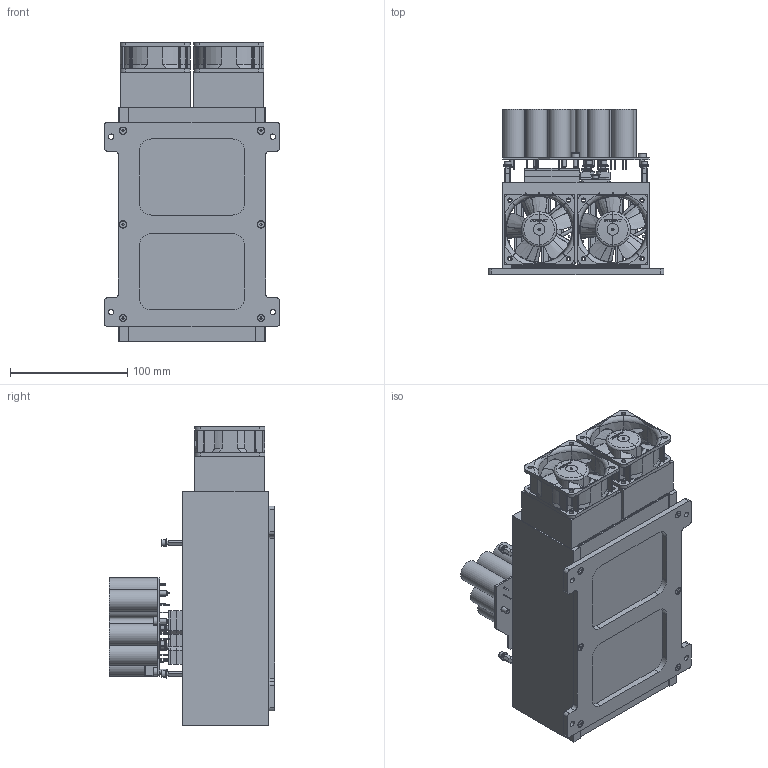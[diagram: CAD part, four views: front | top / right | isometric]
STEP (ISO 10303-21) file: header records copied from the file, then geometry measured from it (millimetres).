
FILE_DESCRIPTION (( 'STEP AP214' ), '1' );
FILE_NAME ('482.06.00.000-B01_Äðàéâåð äèîäíûé.STEP', '2026-02-08T10:13:16', ( '' ), ( '' ), 'SwSTEP 2.0', 'SolidWorks 2019', '' );
FILE_SCHEMA (( 'AUTOMOTIVE_DESIGN' ));
Length unit declared in the file: millimetre
Products named in the file (17): ﾘ琺矜 ﾌ4 DIN127; Q1_sdc-400 LV; 妈眚 󉱭0 DIN7991; SDC-400 LV_1; 妈眚 󉱭6 DIN7991; 482.06.00.002-B01_冓儰僗闉; 482.10.00.012-A01_砑僔蠂縺; 妈眚 󊅠 DIN912; SDC-400 LV_2; Âèíò DIN912 M3x8 screw with spring and washer; 482.10.00.013-A01_砑僔蠂縺; ﾘ琺矜 ﾌ4 DIN125; 482.10.00.001-A01_砱謽闀豂膹馯罻; 妈眚 󊅙0 DIN912; 栺鍣罻 PCHSN-12; 482.06.00.000-B01_Äðàéâåð äèîäíûé; 482.06.00.001-A01_砑僔蠂縺
Assembly tree (44 placements, depth 2):
  482.06.00.000-B01_Äðàéâåð äèîäíûé
    482.06.00.001-A01_砑僔蠂縺
    482.06.00.002-B01_冓儰僗闉
    482.10.00.001-A01_砱謽闀豂膹馯罻
    482.10.00.012-A01_砑僔蠂縺
    482.10.00.013-A01_砑僔蠂縺
    妈眚 󉱭0 DIN7991  x6
    Âèíò DIN912 M3x8 screw with spring and washer  x6
    ﾘ琺矜 ﾌ4 DIN125  x4
    ﾘ琺矜 ﾌ4 DIN127  x4
    妈眚 󊅙0 DIN912  x4
    栺鍣罻 PCHSN-12  x4
    妈眚 󉱭6 DIN7991  x2
    妈眚 󊅠 DIN912  x6
    SDC-400 LV_1
    SDC-400 LV_2
    Q1_sdc-400 LV
Bounding box: 150 x 141.58 x 255.4 mm (x, y, z)
Volume: 1204956.1 mm3; surface area: 754266.1 mm2
Topology: 61 solids, 115 shells, 5431 faces, 14568 edges, 9486 vertices
Faces by surface type: plane 3682, cylinder 1031, bspline 376, cone 203, torus 132, sphere 7
Full cylindrical faces by diameter (mm): 0.6 x2, 0.8 x32, 0.811 x1, 1.011 x18, 2.5 x18, 3 x19, 3.2 x6, 3.5 x4, 3.6 x6, 4 x11, 4.065 x3, 4.2 x1, 4.3 x4, 4.511 x6, 4.6 x4, 5 x8, 5.5 x6, 5.7 x8, 7 x16, 9 x4, 18.5 x16
Entity records: 1043472 total; most frequent: CARTESIAN_POINT 320249, ORIENTED_EDGE 102374, DIRECTION 86791, EDGE_CURVE 74939, VERTEX_POINT 61202, LINE 44349, VECTOR 44349, B_SPLINE_CURVE_WITH_KNOTS 23093
